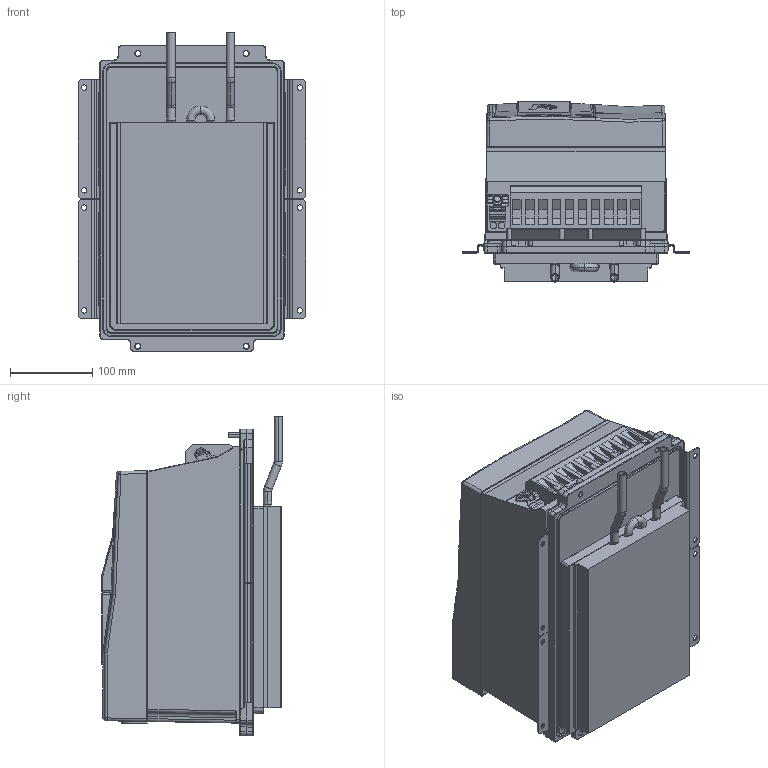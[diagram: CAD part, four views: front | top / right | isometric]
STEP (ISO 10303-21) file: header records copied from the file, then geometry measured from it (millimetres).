
FILE_DESCRIPTION (( 'STEP AP214' ), '1' );
FILE_NAME ('F6-4TW5-K000.STEP', '2020-12-10T07:59:26', ( '' ), ( '' ), 'SwSTEP 2.0', 'SolidWorks 2019', '' );
FILE_SCHEMA (( 'AUTOMOTIVE_DESIGN' ));
Length unit declared in the file: millimetre
Products named in the file (11): 10061644_000_Deckel (Kundenmodell); 10059764_000_Blindabdeckung (Kundenmodell); 10045826_000_Basis Leistungsteil TW5 (Kundenmodell); 10035735_000_Kundenmodell; 10059765_000; 10058413_000; 10058448_000; 10061645_000; 10032600_000_Kundenmodell; F6-4TW5-K000; 10061790_000
Assembly tree (10 placements, depth 4):
  F6-4TW5-K000
    10045826_000_Basis Leistungsteil TW5 (Kundenmodell)
      10061790_000
    10032600_000_Kundenmodell
      10061644_000_Deckel (Kundenmodell)
        10061645_000
      10058448_000
    10035735_000_Kundenmodell
      10059764_000_Blindabdeckung (Kundenmodell)
        10059765_000
      10058413_000
Bounding box: 277 x 219.7 x 389 mm (x, y, z)
Volume: 14020004.8 mm3; surface area: 857850 mm2
Topology: 11 solids, 28 shells, 2598 faces, 6831 edges, 4318 vertices
Faces by surface type: plane 1076, cylinder 666, bspline 536, torus 179, cone 101, sphere 40
Entity records: 102324 total; most frequent: CARTESIAN_POINT 41506, ORIENTED_EDGE 13536, DIRECTION 11120, EDGE_CURVE 6768, VERTEX_POINT 4316, AXIS2_PLACEMENT_3D 3746, VECTOR 3628, LINE 3628
